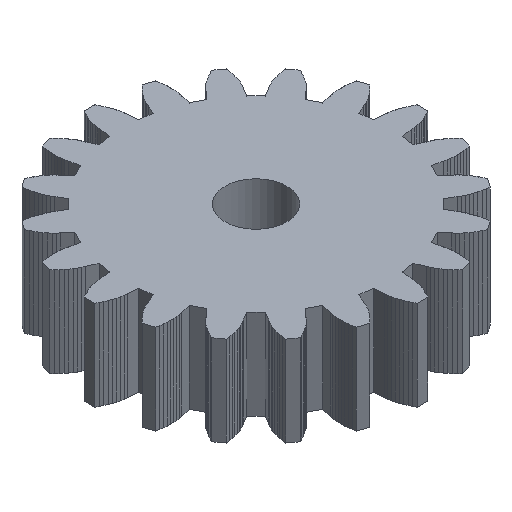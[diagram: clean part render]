
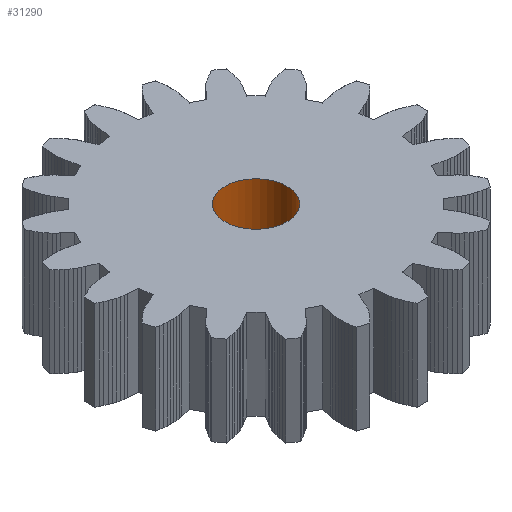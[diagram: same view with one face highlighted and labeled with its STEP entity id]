
A CAD part, isometric view. The second image highlights one B-rep face of the part: STEP entity #31290.
In plain terms, the highlighted cylindrical face has radius 1.63 mm (diameter 3.26 mm), a full revolution.
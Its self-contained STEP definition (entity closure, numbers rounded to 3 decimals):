
#72 = PLANE('',#73);
#73 = AXIS2_PLACEMENT_3D('',#74,#75,#76);
#74 = CARTESIAN_POINT('',(0.,0.,4.75));
#75 = DIRECTION('',(0.,0.,-1.));
#76 = DIRECTION('',(0.,1.,0.));
#126 = PLANE('',#127);
#127 = AXIS2_PLACEMENT_3D('',#128,#129,#130);
#128 = CARTESIAN_POINT('',(0.,0.,
    0.));
#129 = DIRECTION('',(0.,0.,-1.));
#130 = DIRECTION('',(0.,1.,0.));
#11402 = EDGE_CURVE('',#11403,#11403,#11405,.T.);
#11403 = VERTEX_POINT('',#11404);
#11404 = CARTESIAN_POINT('',(0.,1.63,0.)
  );
#11405 = SURFACE_CURVE('',#11406,(#11411,#11418),.PCURVE_S1.);
#11406 = CIRCLE('',#11407,1.63);
#11407 = AXIS2_PLACEMENT_3D('',#11408,#11409,#11410);
#11408 = CARTESIAN_POINT('',(0.,0.,0.));
#11409 = DIRECTION('',(0.,0.,-1.));
#11410 = DIRECTION('',(0.,1.,0.));
#11411 = PCURVE('',#126,#11412);
#11412 = DEFINITIONAL_REPRESENTATION('',(#11413),#11417);
#11413 = CIRCLE('',#11414,1.63);
#11414 = AXIS2_PLACEMENT_2D('',#11415,#11416);
#11415 = CARTESIAN_POINT('',(0.,0.));
#11416 = DIRECTION('',(1.,0.));
#11417 = ( GEOMETRIC_REPRESENTATION_CONTEXT(2) 
PARAMETRIC_REPRESENTATION_CONTEXT() REPRESENTATION_CONTEXT('2D SPACE',''
  ) );
#11418 = PCURVE('',#11419,#11424);
#11419 = CYLINDRICAL_SURFACE('',#11420,1.63);
#11420 = AXIS2_PLACEMENT_3D('',#11421,#11422,#11423);
#11421 = CARTESIAN_POINT('',(0.,0.,4.85));
#11422 = DIRECTION('',(0.,0.,-1.));
#11423 = DIRECTION('',(0.,1.,0.));
#11424 = DEFINITIONAL_REPRESENTATION('',(#11425),#11429);
#11425 = LINE('',#11426,#11427);
#11426 = CARTESIAN_POINT('',(0.,4.85));
#11427 = VECTOR('',#11428,1.);
#11428 = DIRECTION('',(1.,0.));
#11429 = ( GEOMETRIC_REPRESENTATION_CONTEXT(2) 
PARAMETRIC_REPRESENTATION_CONTEXT() REPRESENTATION_CONTEXT('2D SPACE',''
  ) );
#20568 = EDGE_CURVE('',#20569,#20569,#20571,.T.);
#20569 = VERTEX_POINT('',#20570);
#20570 = CARTESIAN_POINT('',(0.,1.63,4.75));
#20571 = SURFACE_CURVE('',#20572,(#20577,#20584),.PCURVE_S1.);
#20572 = CIRCLE('',#20573,1.63);
#20573 = AXIS2_PLACEMENT_3D('',#20574,#20575,#20576);
#20574 = CARTESIAN_POINT('',(0.,0.,4.75));
#20575 = DIRECTION('',(0.,0.,-1.));
#20576 = DIRECTION('',(0.,1.,0.));
#20577 = PCURVE('',#72,#20578);
#20578 = DEFINITIONAL_REPRESENTATION('',(#20579),#20583);
#20579 = CIRCLE('',#20580,1.63);
#20580 = AXIS2_PLACEMENT_2D('',#20581,#20582);
#20581 = CARTESIAN_POINT('',(0.,0.));
#20582 = DIRECTION('',(1.,0.));
#20583 = ( GEOMETRIC_REPRESENTATION_CONTEXT(2) 
PARAMETRIC_REPRESENTATION_CONTEXT() REPRESENTATION_CONTEXT('2D SPACE',''
  ) );
#20584 = PCURVE('',#11419,#20585);
#20585 = DEFINITIONAL_REPRESENTATION('',(#20586),#20590);
#20586 = LINE('',#20587,#20588);
#20587 = CARTESIAN_POINT('',(0.,0.1));
#20588 = VECTOR('',#20589,1.);
#20589 = DIRECTION('',(1.,0.));
#20590 = ( GEOMETRIC_REPRESENTATION_CONTEXT(2) 
PARAMETRIC_REPRESENTATION_CONTEXT() REPRESENTATION_CONTEXT('2D SPACE',''
  ) );
#31290 = ADVANCED_FACE('',(#31291),#11419,.F.);
#31291 = FACE_BOUND('',#31292,.F.);
#31292 = EDGE_LOOP('',(#31293,#31294,#31315,#31316));
#31293 = ORIENTED_EDGE('',*,*,#11402,.F.);
#31294 = ORIENTED_EDGE('',*,*,#31295,.F.);
#31295 = EDGE_CURVE('',#20569,#11403,#31296,.T.);
#31296 = SEAM_CURVE('',#31297,(#31301,#31308),.PCURVE_S1.);
#31297 = LINE('',#31298,#31299);
#31298 = CARTESIAN_POINT('',(0.,1.63,4.85));
#31299 = VECTOR('',#31300,1.);
#31300 = DIRECTION('',(0.,0.,-1.));
#31301 = PCURVE('',#11419,#31302);
#31302 = DEFINITIONAL_REPRESENTATION('',(#31303),#31307);
#31303 = LINE('',#31304,#31305);
#31304 = CARTESIAN_POINT('',(6.283,-0.));
#31305 = VECTOR('',#31306,1.);
#31306 = DIRECTION('',(0.,1.));
#31307 = ( GEOMETRIC_REPRESENTATION_CONTEXT(2) 
PARAMETRIC_REPRESENTATION_CONTEXT() REPRESENTATION_CONTEXT('2D SPACE',''
  ) );
#31308 = PCURVE('',#11419,#31309);
#31309 = DEFINITIONAL_REPRESENTATION('',(#31310),#31314);
#31310 = LINE('',#31311,#31312);
#31311 = CARTESIAN_POINT('',(0.,-0.));
#31312 = VECTOR('',#31313,1.);
#31313 = DIRECTION('',(0.,1.));
#31314 = ( GEOMETRIC_REPRESENTATION_CONTEXT(2) 
PARAMETRIC_REPRESENTATION_CONTEXT() REPRESENTATION_CONTEXT('2D SPACE',''
  ) );
#31315 = ORIENTED_EDGE('',*,*,#20568,.T.);
#31316 = ORIENTED_EDGE('',*,*,#31295,.T.);
